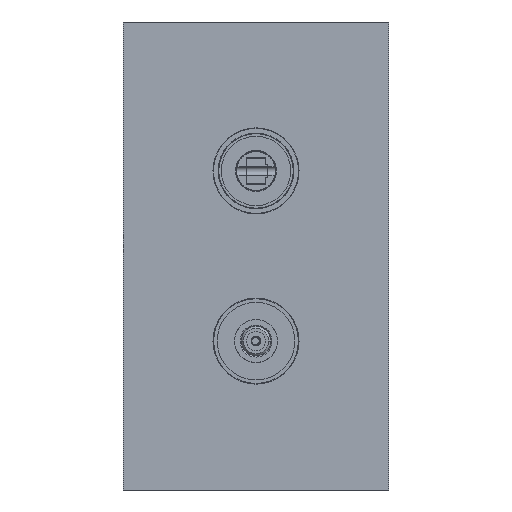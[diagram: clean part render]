
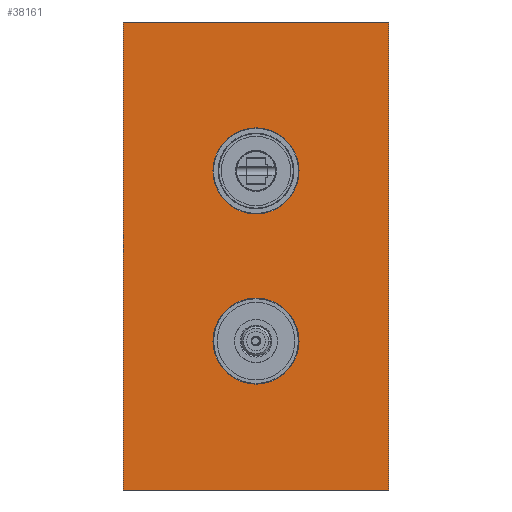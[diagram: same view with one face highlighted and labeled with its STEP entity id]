
A CAD part, front view. The second image highlights one B-rep face of the part: STEP entity #38161.
In plain terms, the highlighted planar face has unit normal (0, -1, 0).
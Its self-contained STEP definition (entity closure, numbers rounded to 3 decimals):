
#37957=DIRECTION('',(0.,0.,1.));
#37958=VECTOR('',#37957,220.);
#37959=CARTESIAN_POINT('',(-62.5,86.2,-150.));
#37960=LINE('',#37959,#37958);
#37961=DIRECTION('',(1.,0.,0.));
#37962=VECTOR('',#37961,125.);
#37963=CARTESIAN_POINT('',(-62.5,86.2,70.));
#37964=LINE('',#37963,#37962);
#37965=DIRECTION('',(0.,0.,-1.));
#37966=VECTOR('',#37965,220.);
#37967=CARTESIAN_POINT('',(62.5,86.2,70.));
#37968=LINE('',#37967,#37966);
#37969=DIRECTION('',(-1.,0.,0.));
#37970=VECTOR('',#37969,125.);
#37971=CARTESIAN_POINT('',(62.5,86.2,-150.));
#37972=LINE('',#37971,#37970);
#37973=CARTESIAN_POINT('',(0.,86.2,-80.));
#37974=DIRECTION('',(0.,1.,0.));
#37975=DIRECTION('',(1.,0.,0.));
#37976=AXIS2_PLACEMENT_3D('',#37973,#37974,#37975);
#37978=CARTESIAN_POINT('',(0.,86.2,-80.));
#37979=DIRECTION('',(0.,1.,0.));
#37980=DIRECTION('',(-1.,0.,0.));
#37981=AXIS2_PLACEMENT_3D('',#37978,#37979,#37980);
#37983=CARTESIAN_POINT('',(0.,86.2,0.));
#37984=DIRECTION('',(0.,1.,0.));
#37985=DIRECTION('',(1.,0.,0.));
#37986=AXIS2_PLACEMENT_3D('',#37983,#37984,#37985);
#37988=CARTESIAN_POINT('',(0.,86.2,0.));
#37989=DIRECTION('',(0.,1.,0.));
#37990=DIRECTION('',(-1.,0.,0.));
#37991=AXIS2_PLACEMENT_3D('',#37988,#37989,#37990);
#38013=CARTESIAN_POINT('',(-62.5,86.2,-150.));
#38014=CARTESIAN_POINT('',(-62.5,86.2,70.));
#38015=VERTEX_POINT('',#38013);
#38016=VERTEX_POINT('',#38014);
#38017=CARTESIAN_POINT('',(62.5,86.2,70.));
#38018=CARTESIAN_POINT('',(62.5,86.2,-150.));
#38019=VERTEX_POINT('',#38017);
#38020=VERTEX_POINT('',#38018);
#38025=CARTESIAN_POINT('',(20.25,86.2,-80.));
#38026=CARTESIAN_POINT('',(-20.25,86.2,-80.));
#38027=VERTEX_POINT('',#38025);
#38028=VERTEX_POINT('',#38026);
#38029=CARTESIAN_POINT('',(20.25,86.2,0.));
#38030=CARTESIAN_POINT('',(-20.25,86.2,0.));
#38031=VERTEX_POINT('',#38029);
#38032=VERTEX_POINT('',#38030);
#38137=CARTESIAN_POINT('',(0.,86.2,-40.));
#38138=DIRECTION('',(0.,1.,0.));
#38139=DIRECTION('',(1.,0.,0.));
#38140=AXIS2_PLACEMENT_3D('',#38137,#38138,#38139);
#38141=PLANE('',#38140);
#38143=ORIENTED_EDGE('',*,*,#38142,.T.);
#38144=ORIENTED_EDGE('',*,*,#38116,.T.);
#38145=ORIENTED_EDGE('',*,*,#38131,.T.);
#38146=ORIENTED_EDGE('',*,*,#38060,.T.);
#38147=EDGE_LOOP('',(#38143,#38144,#38145,#38146));
#38148=FACE_OUTER_BOUND('',#38147,.F.);
#38150=ORIENTED_EDGE('',*,*,#38149,.F.);
#38152=ORIENTED_EDGE('',*,*,#38151,.F.);
#38153=EDGE_LOOP('',(#38150,#38152));
#38154=FACE_BOUND('',#38153,.F.);
#38156=ORIENTED_EDGE('',*,*,#38155,.F.);
#38158=ORIENTED_EDGE('',*,*,#38157,.F.);
#38159=EDGE_LOOP('',(#38156,#38158));
#38160=FACE_BOUND('',#38159,.F.);
#38161=ADVANCED_FACE('',(#38148,#38154,#38160),#38141,.F.);
#37977=CIRCLE('',#37976,20.25);
#37982=CIRCLE('',#37981,20.25);
#37987=CIRCLE('',#37986,20.25);
#37992=CIRCLE('',#37991,20.25);
#38060=EDGE_CURVE('',#38020,#38015,#37972,.T.);
#38116=EDGE_CURVE('',#38016,#38019,#37964,.T.);
#38131=EDGE_CURVE('',#38019,#38020,#37968,.T.);
#38142=EDGE_CURVE('',#38015,#38016,#37960,.T.);
#38149=EDGE_CURVE('',#38027,#38028,#37977,.T.);
#38151=EDGE_CURVE('',#38028,#38027,#37982,.T.);
#38155=EDGE_CURVE('',#38031,#38032,#37987,.T.);
#38157=EDGE_CURVE('',#38032,#38031,#37992,.T.);
